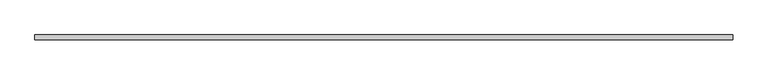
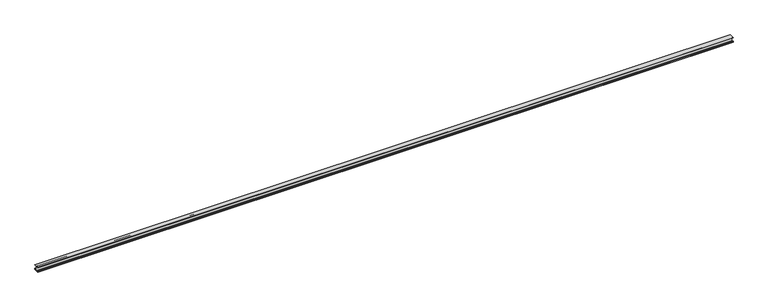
"""IFC4 building model written with IfcOpenShell, lengths in millimetres: proxy geometry, durlum_U1093 : durlum_U1093."""

from ifc_helpers import new_model, si_unit, frame, origin, place, context, project, spatial, polyline, outline, extrude, source, transform, mapped, element, save


def generic_models_674eb8ab(model_context):
    return source(origin(), model_context, "Body", "SweptSolid", [
        extrude(outline(polyline([(-14.0, 28.0), (14.0, 28.0), (14.0, 26.5), (0.75, 26.5), (0.75, 1.5), (12.5, 1.5), (12.5, 6.0), (14.0, 6.0), (14.0, 0.0), (-14.0, 0.0), (-14.0, 6.0), (-12.5, 6.0), (-12.5, 1.5), (-0.75, 1.5), (-0.75, 26.5), (-14.0, 26.5), (-14.0, 28.0)])), frame((-2000.0, 0.0, 0.0), z_axis=(1.0, 0.0, 0.0), x_axis=(0.0, 1.0, 0.0)), (0.0, 0.0, 1.0), 4000.0),
    ])


if __name__ == "__main__":
    model = new_model("IFC4")
    model_context = context("Model", 3, world=origin())
    ifc_project = project(units=[si_unit("LENGTHUNIT", "METRE", prefix="MILLI")], contexts=[model_context])
    site = spatial("IfcSite", under=ifc_project)
    building = spatial("IfcBuilding", under=site)
    placement = place(None, origin())
    generic_models_shape = generic_models_674eb8ab(model_context)
    element("IfcBuildingElementProxy", 1, Name="durlum_U1093 : durlum_U1093", ObjectType="durlum_U1093 : durlum_U1093", at=placement, inside=building, context=model_context, shape_type="MappedRepresentation", body=[
        mapped(generic_models_shape, transform((0.0, 0.0, 0.0), x_axis=(1.0, 0.0, 0.0), y_axis=(0.0, 1.0, 0.0), z_axis=(0.0, 0.0, 1.0))),
    ])
    save(model, "model.ifc")
